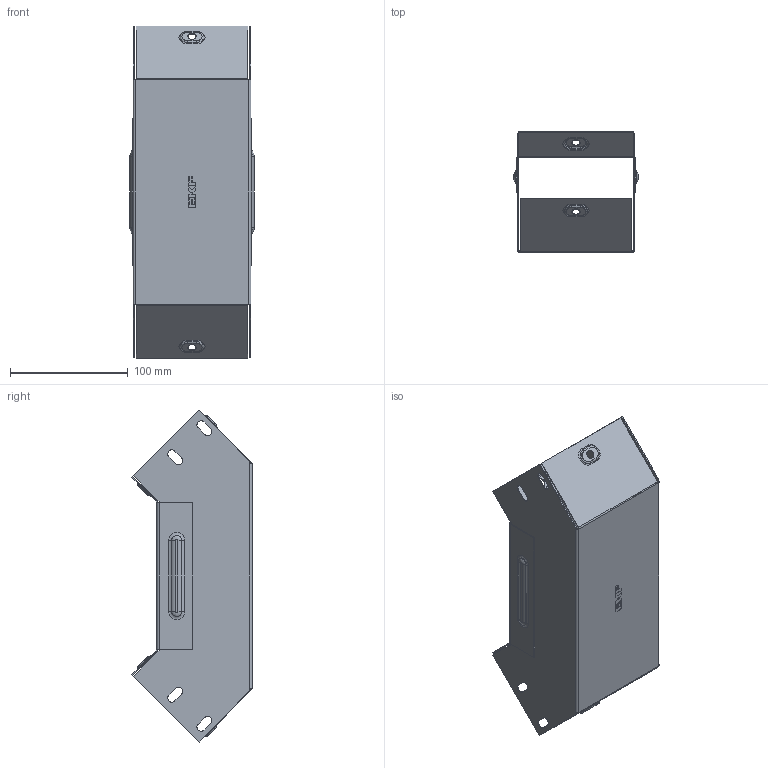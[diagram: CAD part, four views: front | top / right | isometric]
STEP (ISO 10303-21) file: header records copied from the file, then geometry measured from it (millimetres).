
FILE_DESCRIPTION (( 'STEP AP214' ), '1' );
FILE_NAME ('vi9080100_捘.STEP', '2019-06-10T09:28:23', ( '砐錪賧瘔蠈錪 Windows' ), ( '' ), 'SwSTEP 2.0', 'SolidWorks 2018', '' );
FILE_SCHEMA (( 'AUTOMOTIVE_DESIGN' ));
Length unit declared in the file: millimetre
Products named in the file (1): vi9080100_捘
Bounding box: 105.6 x 102.01 x 281.73 mm (x, y, z)
Volume: 76613.7 mm3; surface area: 193513.7 mm2
Topology: 2 solids, 2 shells, 436 faces, 1116 edges, 712 vertices
Faces by surface type: plane 230, cylinder 124, torus 64, bspline 18
Entity records: 14120 total; most frequent: CARTESIAN_POINT 3284, DIRECTION 2262, ORIENTED_EDGE 2232, EDGE_CURVE 1116, AXIS2_PLACEMENT_3D 763, VECTOR 736, LINE 736, VERTEX_POINT 712
